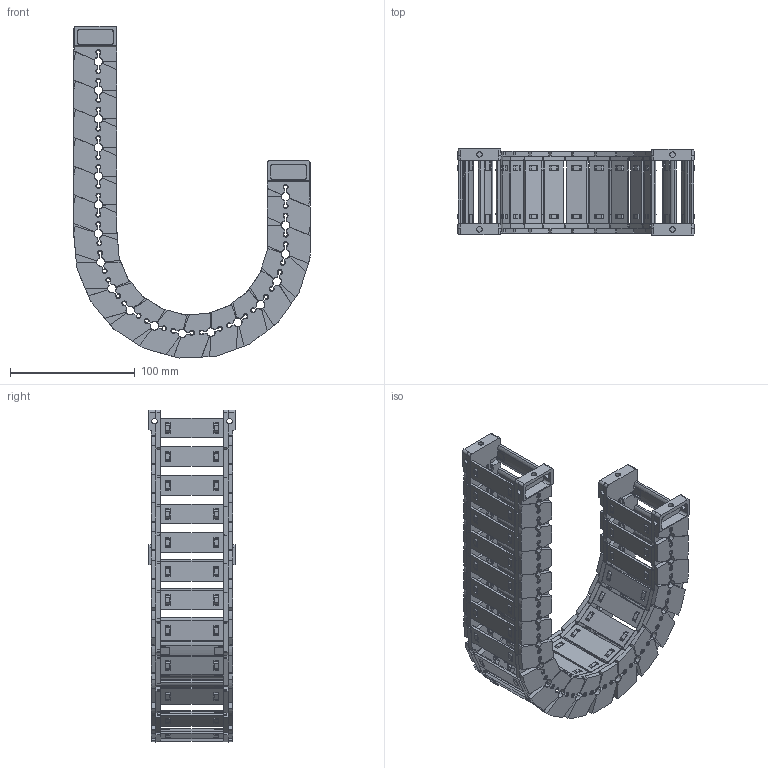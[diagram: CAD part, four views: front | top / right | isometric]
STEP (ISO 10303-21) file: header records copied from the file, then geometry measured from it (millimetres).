
FILE_DESCRIPTION((''),'2;1');
FILE_NAME('JY-28X50-R75_ASM','2026-03-26T08:42:47',('admin'),(''),'CREO PARAMETRIC BY PTC INC, 2021023','CREO PARAMETRIC BY PTC INC, 2021023','');
FILE_SCHEMA(('CONFIG_CONTROL_DESIGN'));
Length unit declared in the file: millimetre
Products named in the file (11): 28XL-L; 25-35XL-YP; 28XL-R; ASM0001_ASM; 28-LTT-A-L; 28-LTT-A-R; 28XL-LTT-A_ASM; 28-LTT-B-L; 28-LTT-B-R; 28XL-LTT-B_ASM; JY-28X50-R75_ASM
Assembly tree (32 placements, depth 3):
  JY-28X50-R75_ASM
    ASM0001_ASM  x18
      28XL-L
      25-35XL-YP
      28XL-R
    28XL-LTT-A_ASM
      28-LTT-A-L
      25-35XL-YP  x2
      28-LTT-A-R
    28XL-LTT-B_ASM
      28-LTT-B-L
      25-35XL-YP  x2
      28-LTT-B-R
Bounding box: 189.55 x 69 x 266.34 mm (x, y, z)
Volume: 303822.8 mm3; surface area: 221468.6 mm2
Topology: 80 solids, 80 shells, 6470 faces, 19228 edges, 12838 vertices
Faces by surface type: plane 4242, cone 1156, cylinder 934, bspline 138
Entity records: 29095 total; most frequent: CARTESIAN_POINT 9490, ORIENTED_EDGE 4352, DIRECTION 3655, EDGE_CURVE 2176, VERTEX_POINT 1454, VECTOR 1365, LINE 1365, AXIS2_PLACEMENT_3D 1145
